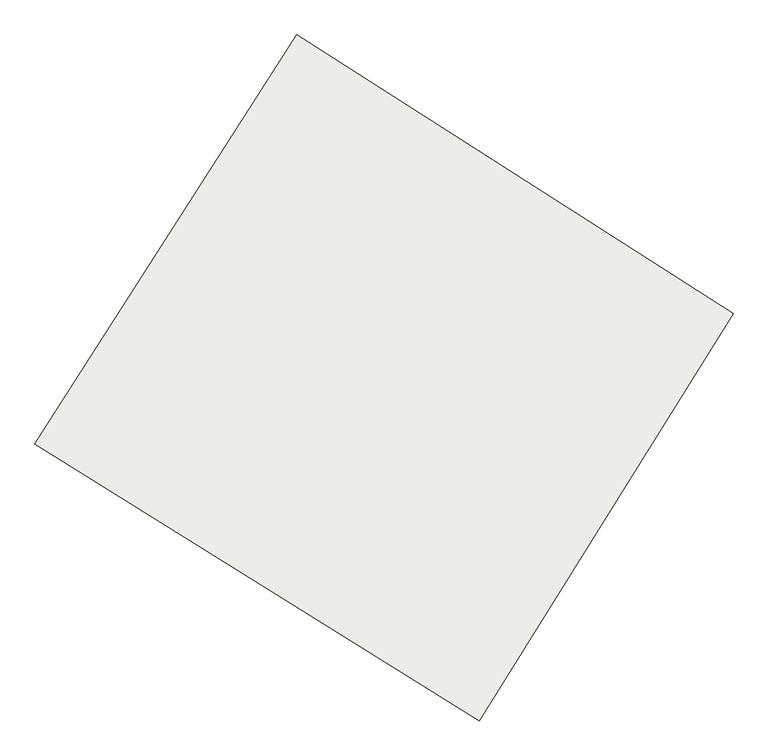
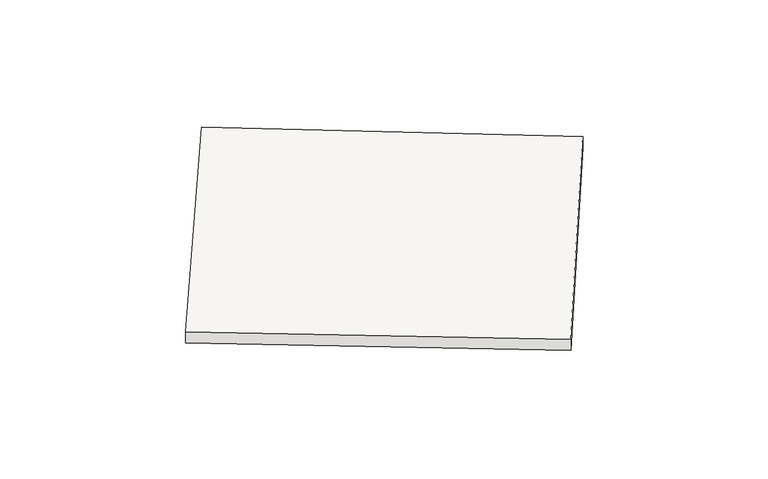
"""IFC4 building model written with IfcOpenShell, lengths in millimetres: slab geometry, Non-Monolitic_Landing."""

from ifc_helpers import new_model, si_unit, frame, origin, place, context, project, spatial, polyline, outline, extrude, source, transform, mapped, element, save


def slab_8440ce68(model_context):
    return source(origin(), model_context, "Body", "SweptSolid", [
        extrude(outline(polyline([(19346.8266963, 10467.1029671), (18649.7917319, 9348.2223777), (17429.3561858, 10108.5235712), (18148.514524, 11233.2872171), (19346.8266963, 10467.1029671)])), frame((0.0, 0.0, 950.0), z_axis=(0.0, 0.0, 1.0), x_axis=(1.0, 0.0, 0.0)), (0.0, 0.0, 1.0), 50.0),
    ])


if __name__ == "__main__":
    model = new_model("IFC4")
    model_context = context("Model", 3, world=origin())
    ifc_project = project(units=[si_unit("LENGTHUNIT", "METRE", prefix="MILLI")], contexts=[model_context])
    site = spatial("IfcSite", under=ifc_project)
    building = spatial("IfcBuilding", under=site)
    placement = place(None, origin())
    slab_shape = slab_8440ce68(model_context)
    element("IfcSlab", 1, ObjectType="Non-Monolitic_Landing", at=placement, inside=building, context=model_context, shape_type="MappedRepresentation", body=[
        mapped(slab_shape, transform((0.0, 0.0, 0.0), x_axis=(1.0, 0.0, 0.0), y_axis=(0.0, 1.0, 0.0), z_axis=(0.0, 0.0, 1.0))),
    ])
    save(model, "model.ifc")
